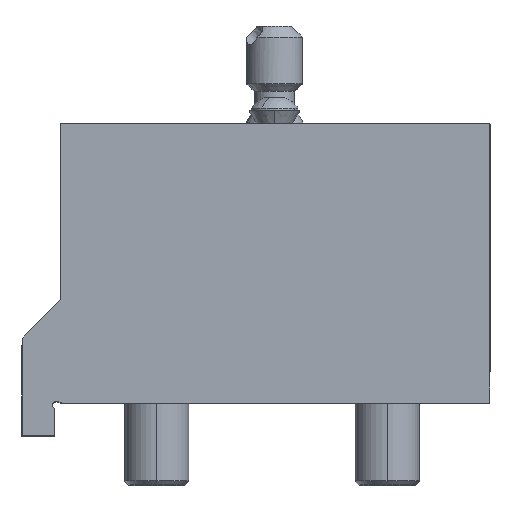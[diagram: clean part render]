
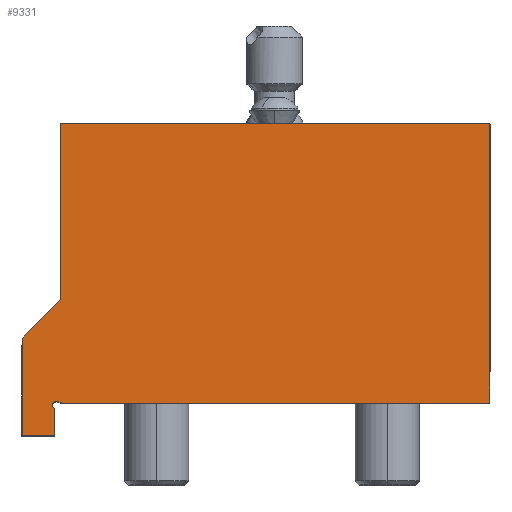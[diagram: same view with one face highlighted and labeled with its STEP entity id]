
A CAD part, top view. The second image highlights one B-rep face of the part: STEP entity #9331.
In plain terms, the highlighted planar face has unit normal (0, 0, 1).
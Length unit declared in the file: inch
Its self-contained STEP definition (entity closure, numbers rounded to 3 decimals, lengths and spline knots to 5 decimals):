
#101 = VERTEX_POINT ( 'NONE', #9481 ) ;
#261 = EDGE_CURVE ( 'NONE', #491, #8525, #993, .T. ) ;
#333 = VERTEX_POINT ( 'NONE', #1078 ) ;
#491 = VERTEX_POINT ( 'NONE', #3883 ) ;
#937 = LINE ( 'NONE', #4103, #3849 ) ;
#971 = AXIS2_PLACEMENT_3D ( 'NONE', #2174, #6947, #4630 ) ;
#993 = LINE ( 'NONE', #4110, #9661 ) ;
#1059 = ORIENTED_EDGE ( 'NONE', *, *, #7355, .F. ) ;
#1078 = CARTESIAN_POINT ( 'NONE',  ( 0., -0.25, 2. ) ) ;
#1237 = VECTOR ( 'NONE', #10119, 39.37008 ) ;
#1403 = CARTESIAN_POINT ( 'NONE',  ( 0., -0.25, 2. ) ) ;
#1454 = LINE ( 'NONE', #4727, #1237 ) ;
#1498 = EDGE_CURVE ( 'NONE', #2592, #491, #5877, .T. ) ;
#1563 = CARTESIAN_POINT ( 'NONE',  ( 3.35, 2.15, 2. ) ) ;
#1661 = EDGE_CURVE ( 'NONE', #3695, #4050, #7096, .T. ) ;
#1970 = DIRECTION ( 'NONE',  ( -1., 0., 0. ) ) ;
#2070 = ORIENTED_EDGE ( 'NONE', *, *, #1498, .F. ) ;
#2143 = EDGE_LOOP ( 'NONE', ( #9428, #2070, #10127, #7255, #4241, #1059, #9078, #2916, #4326, #3116, #9405 ) ) ;
#2174 = CARTESIAN_POINT ( 'NONE',  ( 0.015, -0.015, 2. ) ) ;
#2282 = DIRECTION ( 'NONE',  ( 0., 0., 1. ) ) ;
#2592 = VERTEX_POINT ( 'NONE', #6951 ) ;
#2646 = VERTEX_POINT ( 'NONE', #6482 ) ;
#2711 = LINE ( 'NONE', #5839, #8132 ) ;
#2916 = ORIENTED_EDGE ( 'NONE', *, *, #6646, .T. ) ;
#3103 = FACE_OUTER_BOUND ( 'NONE', #2143, .T. ) ;
#3116 = ORIENTED_EDGE ( 'NONE', *, *, #3426, .F. ) ;
#3153 = CARTESIAN_POINT ( 'NONE',  ( 3.35, 2.15, 2. ) ) ;
#3426 = EDGE_CURVE ( 'NONE', #333, #9684, #6730, .T. ) ;
#3627 = AXIS2_PLACEMENT_3D ( 'NONE', #4690, #2282, #7710 ) ;
#3695 = VERTEX_POINT ( 'NONE', #3153 ) ;
#3849 = VECTOR ( 'NONE', #9554, 39.37008 ) ;
#3883 = CARTESIAN_POINT ( 'NONE',  ( -0.00957, -0.03221, 2. ) ) ;
#4040 = LINE ( 'NONE', #7168, #9432 ) ;
#4050 = VERTEX_POINT ( 'NONE', #4060 ) ;
#4060 = CARTESIAN_POINT ( 'NONE',  ( 3.35, 0., 2. ) ) ;
#4103 = CARTESIAN_POINT ( 'NONE',  ( 0., 0., 2. ) ) ;
#4110 = CARTESIAN_POINT ( 'NONE',  ( -0.00957, -0.03221, 2. ) ) ;
#4241 = ORIENTED_EDGE ( 'NONE', *, *, #1661, .F. ) ;
#4326 = ORIENTED_EDGE ( 'NONE', *, *, #4760, .F. ) ;
#4377 = CARTESIAN_POINT ( 'NONE',  ( -0.25, 2.15, 2. ) ) ;
#4415 = CARTESIAN_POINT ( 'NONE',  ( 0.05, 0.8, 2. ) ) ;
#4600 = VERTEX_POINT ( 'NONE', #7299 ) ;
#4630 = DIRECTION ( 'NONE',  ( 1., 0., 0. ) ) ;
#4668 = EDGE_CURVE ( 'NONE', #8525, #333, #937, .T. ) ;
#4677 = DIRECTION ( 'NONE',  ( 0., 1., 0. ) ) ;
#4690 = CARTESIAN_POINT ( 'NONE',  ( 3.35, 0., 2. ) ) ;
#4727 = CARTESIAN_POINT ( 'NONE',  ( 1.3, 2.05, 2. ) ) ;
#4760 = EDGE_CURVE ( 'NONE', #9684, #2646, #6425, .T. ) ;
#4810 = DIRECTION ( 'NONE',  ( -0.94, 0.342, 0. ) ) ;
#5174 = VECTOR ( 'NONE', #9880, 39.37008 ) ;
#5214 = LINE ( 'NONE', #4377, #5174 ) ;
#5513 = EDGE_CURVE ( 'NONE', #4600, #7822, #5834, .T. ) ;
#5834 = LINE ( 'NONE', #5938, #6341 ) ;
#5839 = CARTESIAN_POINT ( 'NONE',  ( 0.02526, 0.01319, 2. ) ) ;
#5877 = CIRCLE ( 'NONE', #971, 0.03 ) ;
#5938 = CARTESIAN_POINT ( 'NONE',  ( 0.05, 0., 2. ) ) ;
#6329 = DIRECTION ( 'NONE',  ( 0.574, -0.819, 0. ) ) ;
#6341 = VECTOR ( 'NONE', #7267, 39.37008 ) ;
#6425 = LINE ( 'NONE', #8677, #8917 ) ;
#6482 = CARTESIAN_POINT ( 'NONE',  ( -0.25, 0.5, 2. ) ) ;
#6646 = EDGE_CURVE ( 'NONE', #7822, #2646, #1454, .T. ) ;
#6691 = VECTOR ( 'NONE', #7956, 39.37008 ) ;
#6730 = LINE ( 'NONE', #1403, #8537 ) ;
#6947 = DIRECTION ( 'NONE',  ( 0., 0., 1. ) ) ;
#6951 = CARTESIAN_POINT ( 'NONE',  ( 0.02526, 0.01319, 2. ) ) ;
#7096 = LINE ( 'NONE', #1563, #6691 ) ;
#7119 = EDGE_CURVE ( 'NONE', #4050, #101, #4040, .T. ) ;
#7168 = CARTESIAN_POINT ( 'NONE',  ( 3.35, 0., 2. ) ) ;
#7255 = ORIENTED_EDGE ( 'NONE', *, *, #7119, .F. ) ;
#7267 = DIRECTION ( 'NONE',  ( 0., -1., 0. ) ) ;
#7299 = CARTESIAN_POINT ( 'NONE',  ( 0.05, 2.15, 2. ) ) ;
#7355 = EDGE_CURVE ( 'NONE', #4600, #3695, #5214, .T. ) ;
#7710 = DIRECTION ( 'NONE',  ( 1., 0., 0. ) ) ;
#7822 = VERTEX_POINT ( 'NONE', #4415 ) ;
#7956 = DIRECTION ( 'NONE',  ( 0., -1., 0. ) ) ;
#8132 = VECTOR ( 'NONE', #4810, 39.37008 ) ;
#8460 = EDGE_CURVE ( 'NONE', #101, #2592, #2711, .T. ) ;
#8525 = VERTEX_POINT ( 'NONE', #9940 ) ;
#8537 = VECTOR ( 'NONE', #1970, 39.37008 ) ;
#8677 = CARTESIAN_POINT ( 'NONE',  ( -0.25, -0.25, 2. ) ) ;
#8917 = VECTOR ( 'NONE', #4677, 39.37008 ) ;
#9005 = DIRECTION ( 'NONE',  ( -1., 0., 0. ) ) ;
#9078 = ORIENTED_EDGE ( 'NONE', *, *, #5513, .T. ) ;
#9331 = ADVANCED_FACE ( 'NONE', ( #3103 ), #9358, .T. ) ;
#9343 = CARTESIAN_POINT ( 'NONE',  ( -0.25, -0.25, 2. ) ) ;
#9358 = PLANE ( 'NONE',  #3627 ) ;
#9405 = ORIENTED_EDGE ( 'NONE', *, *, #4668, .F. ) ;
#9428 = ORIENTED_EDGE ( 'NONE', *, *, #261, .F. ) ;
#9432 = VECTOR ( 'NONE', #9005, 39.37008 ) ;
#9481 = CARTESIAN_POINT ( 'NONE',  ( 0.0615, 0., 2. ) ) ;
#9554 = DIRECTION ( 'NONE',  ( 0., -1., 0. ) ) ;
#9661 = VECTOR ( 'NONE', #6329, 39.37008 ) ;
#9684 = VERTEX_POINT ( 'NONE', #9343 ) ;
#9880 = DIRECTION ( 'NONE',  ( 1., 0., 0. ) ) ;
#9940 = CARTESIAN_POINT ( 'NONE',  ( 0., -0.04588, 2. ) ) ;
#10119 = DIRECTION ( 'NONE',  ( -0.707, -0.707, 0. ) ) ;
#10127 = ORIENTED_EDGE ( 'NONE', *, *, #8460, .F. ) ;
